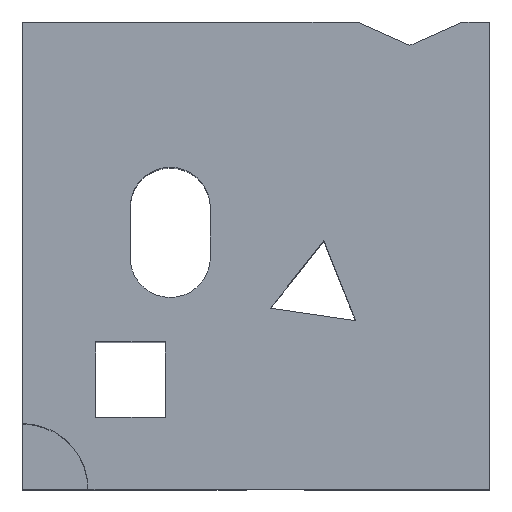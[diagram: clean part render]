
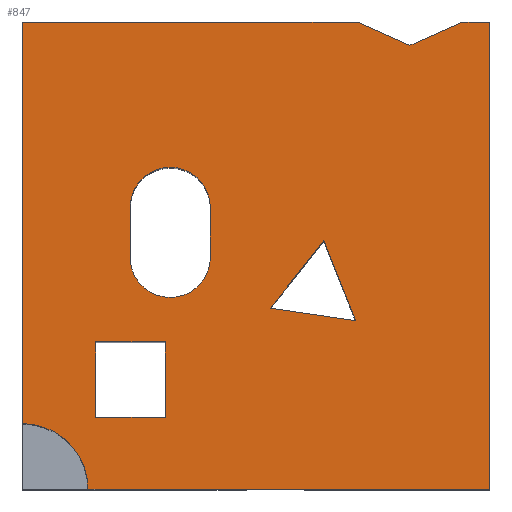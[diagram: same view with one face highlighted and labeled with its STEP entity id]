
A CAD part, top view. The second image highlights one B-rep face of the part: STEP entity #847.
In plain terms, the highlighted planar face has unit normal (0, 0, 1).
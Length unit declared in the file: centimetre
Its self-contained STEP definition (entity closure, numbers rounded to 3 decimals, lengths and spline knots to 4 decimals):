
#11 = VERTEX_POINT ( 'NONE', #1451 ) ;
#15 = CARTESIAN_POINT ( 'NONE',  ( 0., 1000., 1000. ) ) ;
#28 = EDGE_CURVE ( 'NONE', #1007, #1385, #1310, .T. ) ;
#51 = EDGE_LOOP ( 'NONE', ( #182, #503, #1392, #1098 ) ) ;
#59 = ORIENTED_EDGE ( 'NONE', *, *, #889, .T. ) ;
#69 = CARTESIAN_POINT ( 'NONE',  ( 0., 1000., 1000. ) ) ;
#84 = CARTESIAN_POINT ( 'NONE',  ( 716.3818, 1000., 1000. ) ) ;
#92 = CARTESIAN_POINT ( 'NONE',  ( 305.955, 153.9029, 1000. ) ) ;
#104 = DIRECTION ( 'NONE',  ( 1., 0., 0. ) ) ;
#118 = ORIENTED_EDGE ( 'NONE', *, *, #1562, .T. ) ;
#147 = EDGE_CURVE ( 'NONE', #216, #1298, #461, .T. ) ;
#152 = VECTOR ( 'NONE', #603, 100. ) ;
#182 = ORIENTED_EDGE ( 'NONE', *, *, #1346, .T. ) ;
#208 = ORIENTED_EDGE ( 'NONE', *, *, #816, .F. ) ;
#209 = DIRECTION ( 'NONE',  ( 0.62, 0.784, 0. ) ) ;
#214 = CARTESIAN_POINT ( 'NONE',  ( 230.4927, 496.1915, 1000. ) ) ;
#216 = VERTEX_POINT ( 'NONE', #815 ) ;
#225 = FACE_BOUND ( 'NONE', #721, .T. ) ;
#227 = LINE ( 'NONE', #724, #286 ) ;
#237 = VECTOR ( 'NONE', #458, 100. ) ;
#258 = ORIENTED_EDGE ( 'NONE', *, *, #147, .T. ) ;
#274 = CARTESIAN_POINT ( 'NONE',  ( 0., 1000., 1000. ) ) ;
#280 = CARTESIAN_POINT ( 'NONE',  ( 0., 140.3799, 1000. ) ) ;
#286 = VECTOR ( 'NONE', #964, 100. ) ;
#303 = DIRECTION ( 'NONE',  ( -0.989, 0.145, 0. ) ) ;
#316 = VERTEX_POINT ( 'NONE', #1489 ) ;
#318 = CIRCLE ( 'NONE', #523, 85.8758 ) ;
#334 = DIRECTION ( 'NONE',  ( -1., 0., 0. ) ) ;
#340 = AXIS2_PLACEMENT_3D ( 'NONE', #1222, #716, #577 ) ;
#365 = VERTEX_POINT ( 'NONE', #524 ) ;
#369 = VECTOR ( 'NONE', #718, 100. ) ;
#371 = VECTOR ( 'NONE', #508, 100. ) ;
#373 = LINE ( 'NONE', #506, #758 ) ;
#384 = ORIENTED_EDGE ( 'NONE', *, *, #1323, .T. ) ;
#390 = ORIENTED_EDGE ( 'NONE', *, *, #1514, .F. ) ;
#406 = DIRECTION ( 'NONE',  ( 0., 1., 0. ) ) ;
#422 = LINE ( 'NONE', #655, #1357 ) ;
#441 = CARTESIAN_POINT ( 'NONE',  ( 156.7592, 153.9029, 1000. ) ) ;
#447 = VECTOR ( 'NONE', #209, 100. ) ;
#451 = LINE ( 'NONE', #1452, #544 ) ;
#458 = DIRECTION ( 'NONE',  ( -1., 0., 0. ) ) ;
#461 = LINE ( 'NONE', #1286, #648 ) ;
#503 = ORIENTED_EDGE ( 'NONE', *, *, #1402, .T. ) ;
#506 = CARTESIAN_POINT ( 'NONE',  ( 156.7592, 315.1449, 1000. ) ) ;
#508 = DIRECTION ( 'NONE',  ( 0.369, -0.929, 0. ) ) ;
#523 = AXIS2_PLACEMENT_3D ( 'NONE', #793, #549, #1053 ) ;
#524 = CARTESIAN_POINT ( 'NONE',  ( 140.3799, 0., 1000. ) ) ;
#534 = CARTESIAN_POINT ( 'NONE',  ( 402.2443, 496.1915, 1000. ) ) ;
#539 = VERTEX_POINT ( 'NONE', #280 ) ;
#540 = CARTESIAN_POINT ( 'NONE',  ( 156.7592, 315.1449, 1000. ) ) ;
#544 = VECTOR ( 'NONE', #334, 100. ) ;
#547 = ORIENTED_EDGE ( 'NONE', *, *, #678, .T. ) ;
#549 = DIRECTION ( 'NONE',  ( 0., 0., -1. ) ) ;
#566 = CARTESIAN_POINT ( 'NONE',  ( 1000., 1000., 1000. ) ) ;
#572 = LINE ( 'NONE', #1075, #1000 ) ;
#577 = DIRECTION ( 'NONE',  ( 1., 0., 0. ) ) ;
#583 = DIRECTION ( 'NONE',  ( 0.915, -0.404, 0. ) ) ;
#603 = DIRECTION ( 'NONE',  ( 0., -1., 0. ) ) ;
#609 = CARTESIAN_POINT ( 'NONE',  ( 230.4927, 496.1915, 1000. ) ) ;
#612 = VERTEX_POINT ( 'NONE', #1044 ) ;
#616 = EDGE_CURVE ( 'NONE', #1579, #1268, #1536, .T. ) ;
#648 = VECTOR ( 'NONE', #303, 100. ) ;
#655 = CARTESIAN_POINT ( 'NONE',  ( 305.955, 153.9029, 1000. ) ) ;
#675 = LINE ( 'NONE', #274, #1203 ) ;
#676 = AXIS2_PLACEMENT_3D ( 'NONE', #1243, #1010, #1226 ) ;
#678 = EDGE_CURVE ( 'NONE', #925, #539, #1327, .T. ) ;
#713 = LINE ( 'NONE', #214, #1589 ) ;
#715 = VERTEX_POINT ( 'NONE', #822 ) ;
#716 = DIRECTION ( 'NONE',  ( 0., 0., 1. ) ) ;
#718 = DIRECTION ( 'NONE',  ( 1., 0., 0. ) ) ;
#721 = EDGE_LOOP ( 'NONE', ( #1247, #258, #1342 ) ) ;
#722 = DIRECTION ( 'NONE',  ( 0., 0., 1. ) ) ;
#724 = CARTESIAN_POINT ( 'NONE',  ( 402.2443, 602.9537, 1000. ) ) ;
#725 = EDGE_CURVE ( 'NONE', #365, #1007, #1095, .T. ) ;
#758 = VECTOR ( 'NONE', #1493, 100. ) ;
#777 = CARTESIAN_POINT ( 'NONE',  ( 530.7298, 387.4484, 1000. ) ) ;
#793 = CARTESIAN_POINT ( 'NONE',  ( 316.3685, 496.1915, 1000. ) ) ;
#794 = EDGE_CURVE ( 'NONE', #612, #1189, #227, .T. ) ;
#811 = ORIENTED_EDGE ( 'NONE', *, *, #616, .T. ) ;
#815 = CARTESIAN_POINT ( 'NONE',  ( 713.2249, 360.6746, 1000. ) ) ;
#816 = EDGE_CURVE ( 'NONE', #365, #539, #1043, .T. ) ;
#822 = CARTESIAN_POINT ( 'NONE',  ( 942.7329, 1000., 1000. ) ) ;
#847 = ADVANCED_FACE ( 'NONE', ( #962, #1318, #225, #1208 ), #1594, .T. ) ;
#853 = CARTESIAN_POINT ( 'NONE',  ( 0., 0., 1000. ) ) ;
#860 = CARTESIAN_POINT ( 'NONE',  ( 716.3818, 1000., 1000. ) ) ;
#875 = EDGE_CURVE ( 'NONE', #977, #925, #1445, .T. ) ;
#889 = EDGE_CURVE ( 'NONE', #1416, #1579, #451, .T. ) ;
#897 = EDGE_CURVE ( 'NONE', #1298, #316, #1086, .T. ) ;
#925 = VERTEX_POINT ( 'NONE', #15 ) ;
#926 = VERTEX_POINT ( 'NONE', #609 ) ;
#937 = EDGE_CURVE ( 'NONE', #316, #216, #1128, .T. ) ;
#962 = FACE_OUTER_BOUND ( 'NONE', #1605, .T. ) ;
#964 = DIRECTION ( 'NONE',  ( 0., -1., 0. ) ) ;
#977 = VERTEX_POINT ( 'NONE', #860 ) ;
#978 = ORIENTED_EDGE ( 'NONE', *, *, #28, .T. ) ;
#992 = ORIENTED_EDGE ( 'NONE', *, *, #875, .T. ) ;
#1000 = VECTOR ( 'NONE', #1565, 100. ) ;
#1007 = VERTEX_POINT ( 'NONE', #1496 ) ;
#1010 = DIRECTION ( 'NONE',  ( 0., 0., -1. ) ) ;
#1042 = DIRECTION ( 'NONE',  ( 0., -1., 0. ) ) ;
#1043 = CIRCLE ( 'NONE', #340, 140.3799 ) ;
#1044 = CARTESIAN_POINT ( 'NONE',  ( 402.2443, 602.9537, 1000. ) ) ;
#1053 = DIRECTION ( 'NONE',  ( -1., 0., 0. ) ) ;
#1056 = DIRECTION ( 'NONE',  ( -1., 0., 0. ) ) ;
#1075 = CARTESIAN_POINT ( 'NONE',  ( 829.5574, 950., 1000. ) ) ;
#1083 = CARTESIAN_POINT ( 'NONE',  ( 1000., 1000., 1000. ) ) ;
#1086 = LINE ( 'NONE', #1324, #447 ) ;
#1090 = EDGE_CURVE ( 'NONE', #1385, #715, #675, .T. ) ;
#1095 = LINE ( 'NONE', #853, #369 ) ;
#1098 = ORIENTED_EDGE ( 'NONE', *, *, #794, .T. ) ;
#1103 = CARTESIAN_POINT ( 'NONE',  ( 305.955, 315.1449, 1000. ) ) ;
#1128 = LINE ( 'NONE', #1232, #371 ) ;
#1146 = VECTOR ( 'NONE', #583, 100. ) ;
#1170 = VECTOR ( 'NONE', #406, 100. ) ;
#1173 = CIRCLE ( 'NONE', #676, 85.8758 ) ;
#1177 = VECTOR ( 'NONE', #1317, 100. ) ;
#1189 = VERTEX_POINT ( 'NONE', #534 ) ;
#1190 = EDGE_LOOP ( 'NONE', ( #811, #118, #384, #59 ) ) ;
#1203 = VECTOR ( 'NONE', #1056, 100. ) ;
#1208 = FACE_BOUND ( 'NONE', #1190, .T. ) ;
#1213 = DIRECTION ( 'NONE',  ( 0., 1., 0. ) ) ;
#1222 = CARTESIAN_POINT ( 'NONE',  ( 0., 0., 1000. ) ) ;
#1226 = DIRECTION ( 'NONE',  ( -1., 0., 0. ) ) ;
#1232 = CARTESIAN_POINT ( 'NONE',  ( 713.2249, 360.6746, 1000. ) ) ;
#1243 = CARTESIAN_POINT ( 'NONE',  ( 316.3685, 602.9537, 1000. ) ) ;
#1247 = ORIENTED_EDGE ( 'NONE', *, *, #937, .T. ) ;
#1254 = ORIENTED_EDGE ( 'NONE', *, *, #725, .T. ) ;
#1268 = VERTEX_POINT ( 'NONE', #540 ) ;
#1286 = CARTESIAN_POINT ( 'NONE',  ( 530.7298, 387.4484, 1000. ) ) ;
#1298 = VERTEX_POINT ( 'NONE', #777 ) ;
#1310 = LINE ( 'NONE', #566, #1177 ) ;
#1317 = DIRECTION ( 'NONE',  ( 0., 1., 0. ) ) ;
#1318 = FACE_BOUND ( 'NONE', #51, .T. ) ;
#1323 = EDGE_CURVE ( 'NONE', #1599, #1416, #422, .T. ) ;
#1324 = CARTESIAN_POINT ( 'NONE',  ( 645.1642, 532.1069, 1000. ) ) ;
#1327 = LINE ( 'NONE', #1586, #152 ) ;
#1329 = ORIENTED_EDGE ( 'NONE', *, *, #1521, .F. ) ;
#1342 = ORIENTED_EDGE ( 'NONE', *, *, #897, .T. ) ;
#1346 = EDGE_CURVE ( 'NONE', #1189, #926, #318, .T. ) ;
#1349 = ORIENTED_EDGE ( 'NONE', *, *, #1090, .T. ) ;
#1357 = VECTOR ( 'NONE', #1042, 100. ) ;
#1380 = CARTESIAN_POINT ( 'NONE',  ( 156.7592, 153.9029, 1000. ) ) ;
#1381 = AXIS2_PLACEMENT_3D ( 'NONE', #1583, #722, #104 ) ;
#1385 = VERTEX_POINT ( 'NONE', #1083 ) ;
#1392 = ORIENTED_EDGE ( 'NONE', *, *, #1597, .T. ) ;
#1402 = EDGE_CURVE ( 'NONE', #926, #1567, #713, .T. ) ;
#1416 = VERTEX_POINT ( 'NONE', #92 ) ;
#1445 = LINE ( 'NONE', #69, #237 ) ;
#1449 = LINE ( 'NONE', #84, #1146 ) ;
#1451 = CARTESIAN_POINT ( 'NONE',  ( 829.5574, 950., 1000. ) ) ;
#1452 = CARTESIAN_POINT ( 'NONE',  ( 156.7592, 153.9029, 1000. ) ) ;
#1486 = CARTESIAN_POINT ( 'NONE',  ( 230.4927, 602.9537, 1000. ) ) ;
#1489 = CARTESIAN_POINT ( 'NONE',  ( 645.1642, 532.1069, 1000. ) ) ;
#1493 = DIRECTION ( 'NONE',  ( 1., 0., 0. ) ) ;
#1496 = CARTESIAN_POINT ( 'NONE',  ( 1000., 0., 1000. ) ) ;
#1514 = EDGE_CURVE ( 'NONE', #11, #715, #572, .T. ) ;
#1521 = EDGE_CURVE ( 'NONE', #977, #11, #1449, .T. ) ;
#1536 = LINE ( 'NONE', #441, #1170 ) ;
#1562 = EDGE_CURVE ( 'NONE', #1268, #1599, #373, .T. ) ;
#1565 = DIRECTION ( 'NONE',  ( 0.915, 0.404, 0. ) ) ;
#1567 = VERTEX_POINT ( 'NONE', #1486 ) ;
#1579 = VERTEX_POINT ( 'NONE', #1380 ) ;
#1583 = CARTESIAN_POINT ( 'NONE',  ( 0., 0., 1000. ) ) ;
#1586 = CARTESIAN_POINT ( 'NONE',  ( 0., 1000., 1000. ) ) ;
#1589 = VECTOR ( 'NONE', #1213, 100. ) ;
#1594 = PLANE ( 'NONE',  #1381 ) ;
#1597 = EDGE_CURVE ( 'NONE', #1567, #612, #1173, .T. ) ;
#1599 = VERTEX_POINT ( 'NONE', #1103 ) ;
#1605 = EDGE_LOOP ( 'NONE', ( #208, #1254, #978, #1349, #390, #1329, #992, #547 ) ) ;
